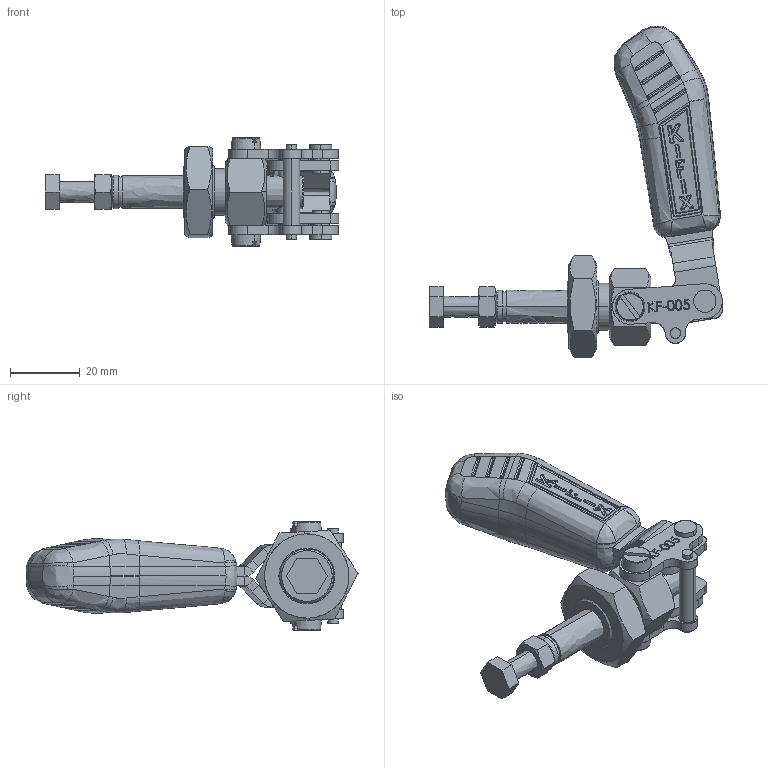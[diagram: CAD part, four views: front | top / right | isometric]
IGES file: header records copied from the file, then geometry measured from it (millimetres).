
Start section: SolidWorks IGES file using analytic representation for surfaces
Global section: file name: P:\SITE KIFIX\GRAMPOS COM IDENTIFICAЫO\KF-005\KF-005.IGS,; native system: SolidWorks 2021; preprocessor: SolidWorks 2021; author: maichel.rilosi; date: 210305.165629; units: millimetre
Bounding box: 83.96 x 95.05 x 30.95 mm (x, y, z)
Surface area: 23961.6 mm2 (no closed solid volume)
Topology: 0 solids, 0 shells, 1110 faces, 11911 edges, 11852 vertices
Faces by surface type: bspline 714, revolution 396
